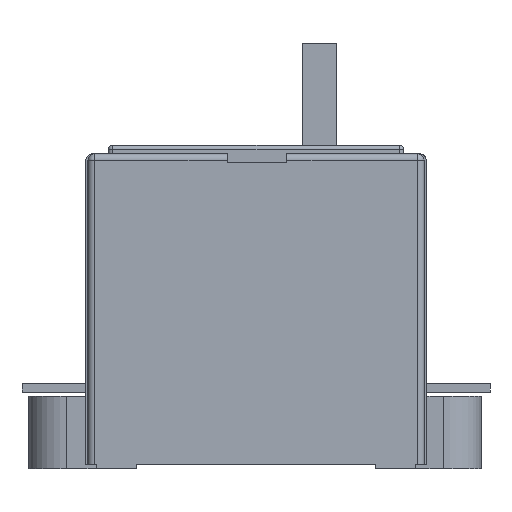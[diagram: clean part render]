
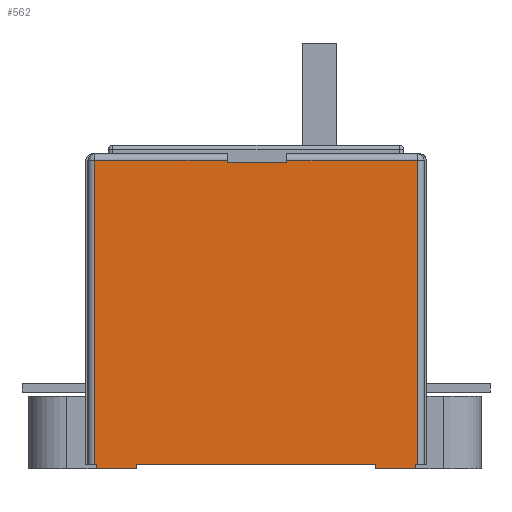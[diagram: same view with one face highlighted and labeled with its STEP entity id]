
A CAD part, left-side view. The second image highlights one B-rep face of the part: STEP entity #562.
In plain terms, the highlighted planar face has unit normal (-1, 0, 0).
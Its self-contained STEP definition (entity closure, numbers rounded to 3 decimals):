
#562=ADVANCED_FACE('',(#1142),#917,.F.);
#917=PLANE('',#6713);
#1142=FACE_OUTER_BOUND('',#1477,.T.);
#1477=EDGE_LOOP('',(#2284,#2285,#2286,#2287,#2288,#2289,#2290,#2291,#2292,
#2293,#2294,#2295,#2296,#2297,#2298,#2299));
#2284=ORIENTED_EDGE('',*,*,#4632,.F.);
#2285=ORIENTED_EDGE('',*,*,#4633,.T.);
#2286=ORIENTED_EDGE('',*,*,#4634,.T.);
#2287=ORIENTED_EDGE('',*,*,#4635,.F.);
#2288=ORIENTED_EDGE('',*,*,#4636,.T.);
#2289=ORIENTED_EDGE('',*,*,#4637,.T.);
#2290=ORIENTED_EDGE('',*,*,#4630,.T.);
#2291=ORIENTED_EDGE('',*,*,#4482,.T.);
#2292=ORIENTED_EDGE('',*,*,#4627,.F.);
#2293=ORIENTED_EDGE('',*,*,#4638,.F.);
#2294=ORIENTED_EDGE('',*,*,#4639,.T.);
#2295=ORIENTED_EDGE('',*,*,#4313,.T.);
#2296=ORIENTED_EDGE('',*,*,#4640,.F.);
#2297=ORIENTED_EDGE('',*,*,#4641,.F.);
#2298=ORIENTED_EDGE('',*,*,#4642,.T.);
#2299=ORIENTED_EDGE('',*,*,#4498,.T.);
#3731=VERTEX_POINT('',#9204);
#3732=VERTEX_POINT('',#9206);
#3888=VERTEX_POINT('',#9555);
#3889=VERTEX_POINT('',#9557);
#3900=VERTEX_POINT('',#9583);
#3903=VERTEX_POINT('',#9589);
#3983=VERTEX_POINT('',#9836);
#3985=VERTEX_POINT('',#9844);
#3986=VERTEX_POINT('',#9848);
#3987=VERTEX_POINT('',#9850);
#3988=VERTEX_POINT('',#9852);
#3989=VERTEX_POINT('',#9854);
#3990=VERTEX_POINT('',#9856);
#3991=VERTEX_POINT('',#9859);
#3992=VERTEX_POINT('',#9862);
#3993=VERTEX_POINT('',#9864);
#4313=EDGE_CURVE('',#3732,#3731,#5244,.T.);
#4482=EDGE_CURVE('',#3889,#3888,#5380,.T.);
#4498=EDGE_CURVE('',#3900,#3903,#5392,.T.);
#4627=EDGE_CURVE('',#3983,#3888,#5506,.T.);
#4630=EDGE_CURVE('',#3985,#3889,#5509,.T.);
#4632=EDGE_CURVE('',#3986,#3903,#5510,.T.);
#4633=EDGE_CURVE('',#3986,#3987,#5511,.T.);
#4634=EDGE_CURVE('',#3987,#3988,#5512,.T.);
#4635=EDGE_CURVE('',#3989,#3988,#5513,.T.);
#4636=EDGE_CURVE('',#3989,#3990,#5514,.T.);
#4637=EDGE_CURVE('',#3990,#3985,#5515,.T.);
#4638=EDGE_CURVE('',#3991,#3983,#5516,.T.);
#4639=EDGE_CURVE('',#3991,#3732,#5517,.T.);
#4640=EDGE_CURVE('',#3992,#3731,#5518,.T.);
#4641=EDGE_CURVE('',#3993,#3992,#5519,.T.);
#4642=EDGE_CURVE('',#3993,#3900,#5520,.T.);
#5244=LINE('',#9205,#5946);
#5380=LINE('',#9556,#6082);
#5392=LINE('',#9590,#6094);
#5506=LINE('',#9837,#6208);
#5509=LINE('',#9843,#6211);
#5510=LINE('',#9847,#6212);
#5511=LINE('',#9849,#6213);
#5512=LINE('',#9851,#6214);
#5513=LINE('',#9853,#6215);
#5514=LINE('',#9855,#6216);
#5515=LINE('',#9857,#6217);
#5516=LINE('',#9858,#6218);
#5517=LINE('',#9860,#6219);
#5518=LINE('',#9861,#6220);
#5519=LINE('',#9863,#6221);
#5520=LINE('',#9865,#6222);
#5946=VECTOR('',#7259,1.);
#6082=VECTOR('',#7511,1.);
#6094=VECTOR('',#7537,1.);
#6208=VECTOR('',#7757,1.);
#6211=VECTOR('',#7764,1.);
#6212=VECTOR('',#7769,1.);
#6213=VECTOR('',#7770,1.);
#6214=VECTOR('',#7771,1.);
#6215=VECTOR('',#7772,1.);
#6216=VECTOR('',#7773,1.);
#6217=VECTOR('',#7774,1.);
#6218=VECTOR('',#7775,1.);
#6219=VECTOR('',#7776,1.);
#6220=VECTOR('',#7777,1.);
#6221=VECTOR('',#7778,1.);
#6222=VECTOR('',#7779,1.);
#6713=AXIS2_PLACEMENT_3D('',#9866,#7780,#7781);
#7259=DIRECTION('',(0.,-1.,0.));
#7511=DIRECTION('',(0.,-1.,0.));
#7537=DIRECTION('',(0.,-1.,0.));
#7757=DIRECTION('',(0.,0.,1.));
#7764=DIRECTION('',(0.,0.,-1.));
#7769=DIRECTION('',(0.,0.,-1.));
#7770=DIRECTION('',(0.,1.,0.));
#7771=DIRECTION('',(0.,0.,-1.));
#7772=DIRECTION('',(0.,-1.,0.));
#7773=DIRECTION('',(0.,0.,1.));
#7774=DIRECTION('',(0.,1.,0.));
#7775=DIRECTION('',(0.,1.,0.));
#7776=DIRECTION('',(0.,0.,1.));
#7777=DIRECTION('',(0.,0.,1.));
#7778=DIRECTION('',(0.,1.,0.));
#7779=DIRECTION('',(0.,0.,1.));
#7780=DIRECTION('',(1.,0.,0.));
#7781=DIRECTION('',(0.,0.,-1.));
#9204=CARTESIAN_POINT('',(-69.,-52.735,-3.9));
#9205=CARTESIAN_POINT('',(-69.,-62.235,-3.9));
#9206=CARTESIAN_POINT('',(-69.,3.265,-3.9));
#9555=CARTESIAN_POINT('',(-69.,12.765,-3.9));
#9556=CARTESIAN_POINT('',(-69.,-62.235,-3.9));
#9557=CARTESIAN_POINT('',(-69.,13.265,-3.9));
#9583=CARTESIAN_POINT('',(-69.,-62.235,-3.9));
#9589=CARTESIAN_POINT('',(-69.,-62.735,-3.9));
#9590=CARTESIAN_POINT('',(-69.,-62.235,-3.9));
#9836=CARTESIAN_POINT('',(-69.,12.765,-4.9));
#9837=CARTESIAN_POINT('',(-69.,12.765,-5.9));
#9843=CARTESIAN_POINT('',(-69.,13.265,69.1));
#9844=CARTESIAN_POINT('',(-69.,13.265,67.6));
#9847=CARTESIAN_POINT('',(-69.,-62.735,69.1));
#9848=CARTESIAN_POINT('',(-69.,-62.735,67.6));
#9849=CARTESIAN_POINT('',(-69.,13.265,67.6));
#9850=CARTESIAN_POINT('',(-69.,-31.985,67.6));
#9851=CARTESIAN_POINT('',(-69.,-31.985,69.1));
#9852=CARTESIAN_POINT('',(-69.,-31.985,67.));
#9853=CARTESIAN_POINT('',(-69.,12.765,67.));
#9854=CARTESIAN_POINT('',(-69.,-17.985,67.));
#9855=CARTESIAN_POINT('',(-69.,-17.985,69.1));
#9856=CARTESIAN_POINT('',(-69.,-17.985,67.6));
#9857=CARTESIAN_POINT('',(-69.,13.265,67.6));
#9858=CARTESIAN_POINT('',(-69.,3.265,-4.9));
#9859=CARTESIAN_POINT('',(-69.,3.265,-4.9));
#9860=CARTESIAN_POINT('',(-69.,3.265,-5.9));
#9861=CARTESIAN_POINT('',(-69.,-52.735,-5.9));
#9862=CARTESIAN_POINT('',(-69.,-52.735,-4.9));
#9863=CARTESIAN_POINT('',(-69.,-62.235,-4.9));
#9864=CARTESIAN_POINT('',(-69.,-62.235,-4.9));
#9865=CARTESIAN_POINT('',(-69.,-62.235,-5.9));
#9866=CARTESIAN_POINT('',(-69.,-62.235,69.1));
